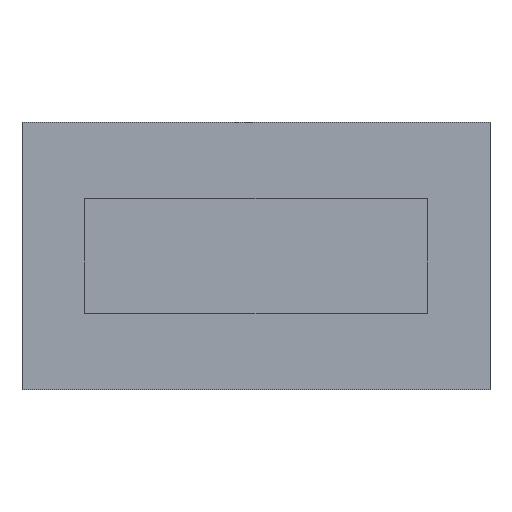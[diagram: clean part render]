
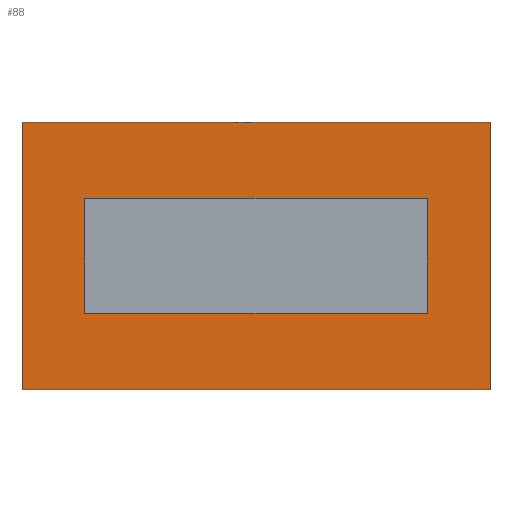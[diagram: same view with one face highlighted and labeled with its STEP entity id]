
A CAD part, top view. The second image highlights one B-rep face of the part: STEP entity #88.
In plain terms, the highlighted planar face has unit normal (0, 0, 1).
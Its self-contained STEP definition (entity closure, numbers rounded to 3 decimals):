
#24 = VERTEX_POINT('',#25);
#25 = CARTESIAN_POINT('',(-17.5,-10.,4.));
#40 = VERTEX_POINT('',#41);
#41 = CARTESIAN_POINT('',(-17.5,10.,4.));
#47 = EDGE_CURVE('',#24,#40,#48,.T.);
#48 = LINE('',#49,#50);
#49 = CARTESIAN_POINT('',(-17.5,-10.,4.));
#50 = VECTOR('',#51,1.);
#51 = DIRECTION('',(0.,1.,0.));
#70 = EDGE_CURVE('',#24,#71,#73,.T.);
#71 = VERTEX_POINT('',#72);
#72 = CARTESIAN_POINT('',(17.5,-10.,4.));
#73 = LINE('',#74,#75);
#74 = CARTESIAN_POINT('',(-17.5,-10.,4.));
#75 = VECTOR('',#76,1.);
#76 = DIRECTION('',(1.,0.,0.));
#88 = ADVANCED_FACE('',(#89,#107),#141,.T.);
#89 = FACE_BOUND('',#90,.T.);
#90 = EDGE_LOOP('',(#91,#92,#93,#101));
#91 = ORIENTED_EDGE('',*,*,#47,.F.);
#92 = ORIENTED_EDGE('',*,*,#70,.T.);
#93 = ORIENTED_EDGE('',*,*,#94,.T.);
#94 = EDGE_CURVE('',#71,#95,#97,.T.);
#95 = VERTEX_POINT('',#96);
#96 = CARTESIAN_POINT('',(17.5,10.,4.));
#97 = LINE('',#98,#99);
#98 = CARTESIAN_POINT('',(17.5,-10.,4.));
#99 = VECTOR('',#100,1.);
#100 = DIRECTION('',(0.,1.,0.));
#101 = ORIENTED_EDGE('',*,*,#102,.F.);
#102 = EDGE_CURVE('',#40,#95,#103,.T.);
#103 = LINE('',#104,#105);
#104 = CARTESIAN_POINT('',(-17.5,10.,4.));
#105 = VECTOR('',#106,1.);
#106 = DIRECTION('',(1.,0.,0.));
#107 = FACE_BOUND('',#108,.T.);
#108 = EDGE_LOOP('',(#109,#119,#127,#135));
#109 = ORIENTED_EDGE('',*,*,#110,.T.);
#110 = EDGE_CURVE('',#111,#113,#115,.T.);
#111 = VERTEX_POINT('',#112);
#112 = CARTESIAN_POINT('',(12.8,-4.3,4.));
#113 = VERTEX_POINT('',#114);
#114 = CARTESIAN_POINT('',(-12.8,-4.3,4.));
#115 = LINE('',#116,#117);
#116 = CARTESIAN_POINT('',(-15.15,-4.3,4.));
#117 = VECTOR('',#118,1.);
#118 = DIRECTION('',(-1.,0.,0.));
#119 = ORIENTED_EDGE('',*,*,#120,.T.);
#120 = EDGE_CURVE('',#113,#121,#123,.T.);
#121 = VERTEX_POINT('',#122);
#122 = CARTESIAN_POINT('',(-12.8,4.3,4.));
#123 = LINE('',#124,#125);
#124 = CARTESIAN_POINT('',(-12.8,-7.15,4.));
#125 = VECTOR('',#126,1.);
#126 = DIRECTION('',(0.,1.,0.));
#127 = ORIENTED_EDGE('',*,*,#128,.F.);
#128 = EDGE_CURVE('',#129,#121,#131,.T.);
#129 = VERTEX_POINT('',#130);
#130 = CARTESIAN_POINT('',(12.8,4.3,4.));
#131 = LINE('',#132,#133);
#132 = CARTESIAN_POINT('',(-15.15,4.3,4.));
#133 = VECTOR('',#134,1.);
#134 = DIRECTION('',(-1.,0.,0.));
#135 = ORIENTED_EDGE('',*,*,#136,.F.);
#136 = EDGE_CURVE('',#111,#129,#137,.T.);
#137 = LINE('',#138,#139);
#138 = CARTESIAN_POINT('',(12.8,-7.15,4.));
#139 = VECTOR('',#140,1.);
#140 = DIRECTION('',(0.,1.,0.));
#141 = PLANE('',#142);
#142 = AXIS2_PLACEMENT_3D('',#143,#144,#145);
#143 = CARTESIAN_POINT('',(-17.5,-10.,4.));
#144 = DIRECTION('',(0.,0.,1.));
#145 = DIRECTION('',(1.,0.,0.));
